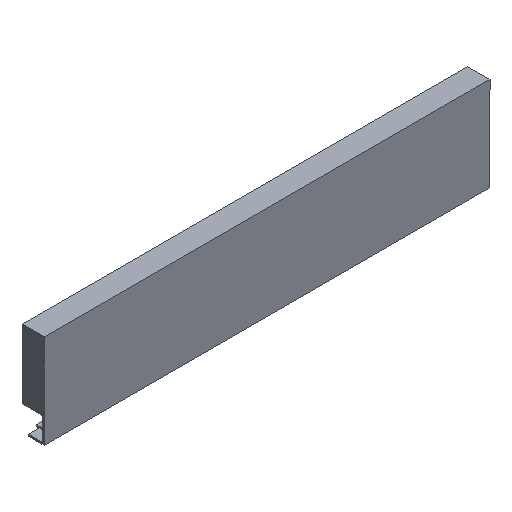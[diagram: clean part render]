
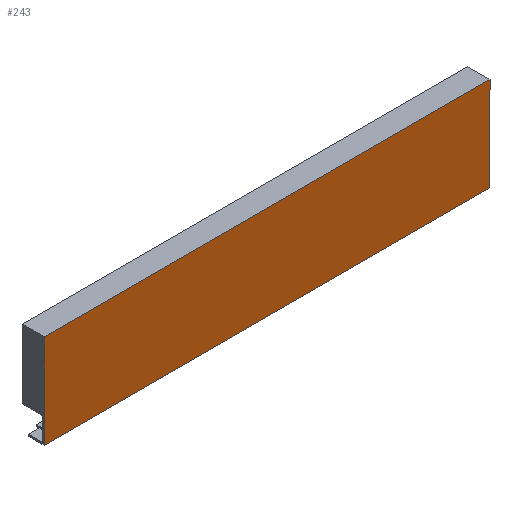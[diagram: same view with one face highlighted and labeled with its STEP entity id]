
A CAD part, isometric view. The second image highlights one B-rep face of the part: STEP entity #243.
In plain terms, the highlighted planar face has unit normal (0, -1, 0).
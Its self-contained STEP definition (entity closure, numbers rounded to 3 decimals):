
#6 = LINE ( 'NONE', #437, #8 ) ;
#8 = VECTOR ( 'NONE', #443, 1000. ) ;
#36 = FACE_OUTER_BOUND ( 'NONE', #115, .T. ) ;
#60 = ORIENTED_EDGE ( 'NONE', *, *, #326, .T. ) ;
#61 = ORIENTED_EDGE ( 'NONE', *, *, #269, .F. ) ;
#62 = ORIENTED_EDGE ( 'NONE', *, *, #302, .F. ) ;
#63 = ORIENTED_EDGE ( 'NONE', *, *, #293, .T. ) ;
#115 = EDGE_LOOP ( 'NONE', ( #60, #61, #62, #63 ) ) ;
#172 = LINE ( 'NONE', #477, #173 ) ;
#173 = VECTOR ( 'NONE', #478, 1000. ) ;
#181 = LINE ( 'NONE', #490, #182 ) ;
#182 = VECTOR ( 'NONE', #491, 1000. ) ;
#205 = LINE ( 'NONE', #514, #206 ) ;
#206 = VECTOR ( 'NONE', #515, 1000. ) ;
#231 = VERTEX_POINT ( 'NONE', #356 ) ;
#232 = VERTEX_POINT ( 'NONE', #357 ) ;
#235 = VERTEX_POINT ( 'NONE', #358 ) ;
#243 = ADVANCED_FACE ( 'NONE', ( #36 ), #367, .F. ) ;
#269 = EDGE_CURVE ( 'NONE', #231, #232, #6, .T. ) ;
#293 = EDGE_CURVE ( 'NONE', #344, #235, #172, .T. ) ;
#302 = EDGE_CURVE ( 'NONE', #344, #231, #181, .T. ) ;
#305 = AXIS2_PLACEMENT_3D ( 'NONE', #366, #375, #376 ) ;
#326 = EDGE_CURVE ( 'NONE', #235, #232, #205, .T. ) ;
#344 = VERTEX_POINT ( 'NONE', #524 ) ;
#356 = CARTESIAN_POINT ( 'NONE',  ( -160.5, -5.5, 49.7 ) ) ;
#357 = CARTESIAN_POINT ( 'NONE',  ( 160.5, -5.5, 49.7 ) ) ;
#358 = CARTESIAN_POINT ( 'NONE',  ( 160.5, -5.5, -17.9 ) ) ;
#366 = CARTESIAN_POINT ( 'NONE',  ( -160.5, -5.5, -17.9 ) ) ;
#367 = PLANE ( 'NONE',  #305 ) ;
#375 = DIRECTION ( 'NONE',  ( 0., 1., 0. ) ) ;
#376 = DIRECTION ( 'NONE',  ( 0., 0., -1. ) ) ;
#437 = CARTESIAN_POINT ( 'NONE',  ( -160.5, -5.5, 49.7 ) ) ;
#443 = DIRECTION ( 'NONE',  ( 1., 0., 0. ) ) ;
#477 = CARTESIAN_POINT ( 'NONE',  ( -160.5, -5.5, -17.9 ) ) ;
#478 = DIRECTION ( 'NONE',  ( 1., 0., 0. ) ) ;
#490 = CARTESIAN_POINT ( 'NONE',  ( -160.5, -5.5, -17.9 ) ) ;
#491 = DIRECTION ( 'NONE',  ( 0., 0., 1. ) ) ;
#514 = CARTESIAN_POINT ( 'NONE',  ( 160.5, -5.5, -17.9 ) ) ;
#515 = DIRECTION ( 'NONE',  ( 0., 0., 1. ) ) ;
#524 = CARTESIAN_POINT ( 'NONE',  ( -160.5, -5.5, -17.9 ) ) ;
